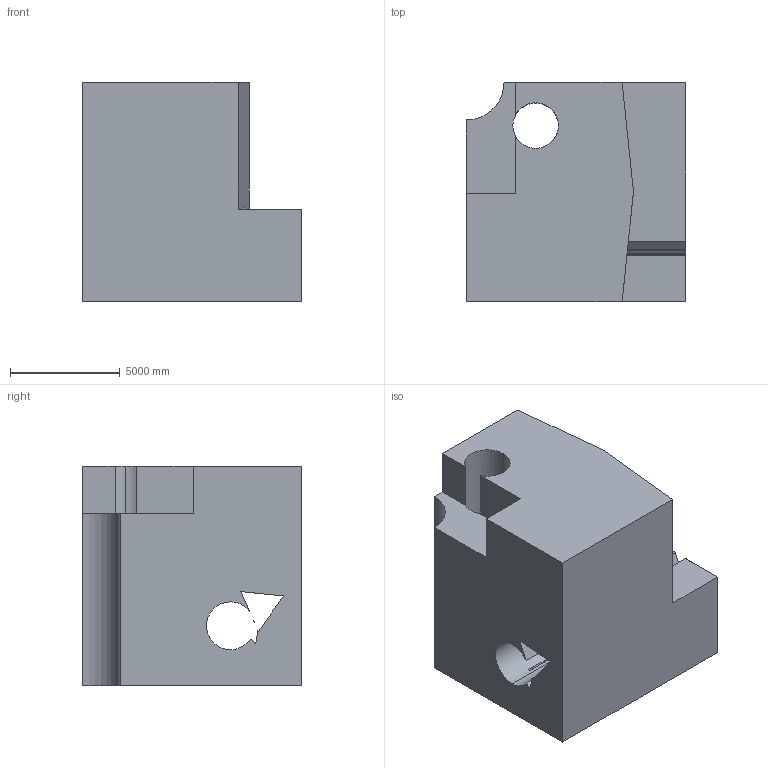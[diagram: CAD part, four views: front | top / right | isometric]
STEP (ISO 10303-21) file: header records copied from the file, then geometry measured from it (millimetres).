
FILE_DESCRIPTION (( 'STEP AP203' ), '1' );
FILE_NAME ('1742.STEP', '2022-08-19T12:17:30', ( 'user' ), ( '' ), 'SwSTEP 2.0', 'SolidWorks 2021', '' );
FILE_SCHEMA (( 'CONFIG_CONTROL_DESIGN' ));
Length unit declared in the file: centimetre
Products named in the file (1): 1742
Bounding box: 10000 x 10000 x 10000 mm (x, y, z)
Volume: 708071849129.8 mm3; surface area: 720159261.9 mm2
Topology: 2 solids, 2 shells, 35 faces, 99 edges, 66 vertices
Faces by surface type: plane 27, cylinder 8
Entity records: 1214 total; most frequent: CARTESIAN_POINT 201, ORIENTED_EDGE 198, DIRECTION 189, EDGE_CURVE 99, LINE 81, VECTOR 81, VERTEX_POINT 66, AXIS2_PLACEMENT_3D 54
